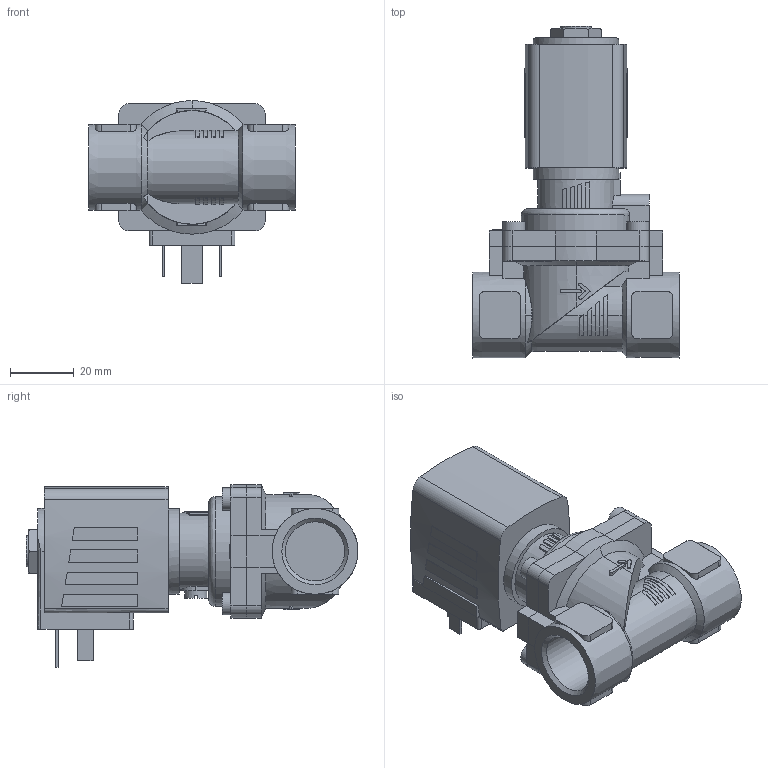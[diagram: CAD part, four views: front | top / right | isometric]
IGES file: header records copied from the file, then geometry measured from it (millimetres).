
Start section: Data from Parasolid IGES Translator 26.0.171, Copyright(c) 2006 Siemens PLM Software. All Rights Reserved.
Global section: file name: 6281-328869-2_2-Way_Solenoid_Valve__Servo-assisted__General_Purpose.igs; native system: By Siemens PLM Incorporated; preprocessor: XPlus GENERIC/IGES 26.0.171; author: Noname; organization: Noname; date: 20240527.110415; units: millimetre
Bounding box: 65 x 104.5 x 57.5 mm (x, y, z)
Surface area: 29290.4 mm2 (no closed solid volume)
Topology: 0 solids, 0 shells, 371 faces, 1966 edges, 1959 vertices
Faces by surface type: extrusion 241, revolution 130
